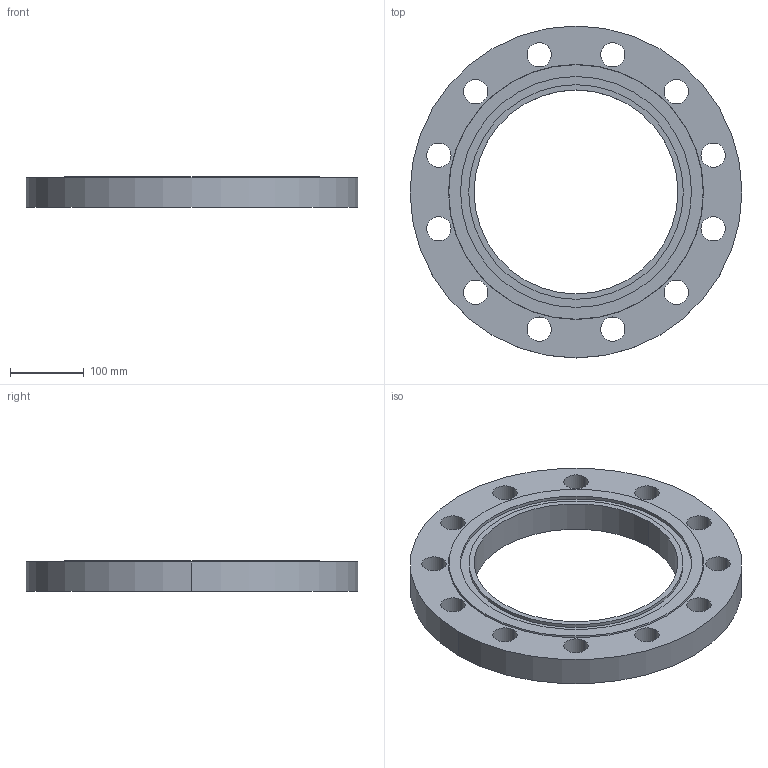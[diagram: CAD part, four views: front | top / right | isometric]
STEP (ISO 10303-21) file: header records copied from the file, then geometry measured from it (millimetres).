
FILE_DESCRIPTION (( 'STEP AP214' ), '1' );
FILE_NAME ('PN40 DN250 Type 01 - Type D Face.STEP', '2019-01-05T16:40:02', ( '' ), ( '' ), 'SwSTEP 2.0', 'SolidWorks 2019', '' );
FILE_SCHEMA (( 'AUTOMOTIVE_DESIGN' ));
Length unit declared in the file: millimetre
Products named in the file (1): PN40 DN250 Type 01 - Type D Face
Bounding box: 450 x 450 x 42 mm (x, y, z)
Volume: 3569655.5 mm3; surface area: 330622.6 mm2
Topology: 1 solids, 1 shells, 39 faces, 102 edges, 68 vertices
Faces by surface type: cylinder 32, plane 5, cone 2
Entity records: 1330 total; most frequent: DIRECTION 250, CARTESIAN_POINT 210, ORIENTED_EDGE 204, AXIS2_PLACEMENT_3D 108, EDGE_CURVE 102, CIRCLE 68, EDGE_LOOP 68, VERTEX_POINT 68
